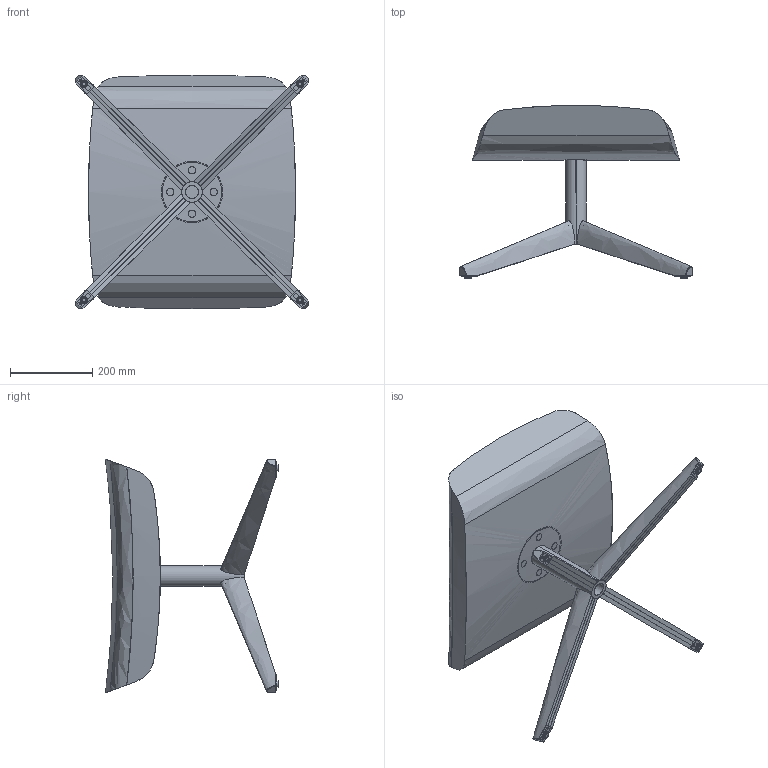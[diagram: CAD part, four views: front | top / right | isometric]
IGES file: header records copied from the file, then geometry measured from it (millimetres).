
Start section: SolidWorks IGES file using analytic representation for surfaces
Global section: file name: C:\Users\Kentie3D\Projecten\2013\1319 Montis verkoop info\Puk\3D\Puk poef.IGS; native system: SolidWorks 2013; preprocessor: SolidWorks 2013; author: Kentie3D; date: 131216.160407; units: millimetre
Bounding box: 568.99 x 422.21 x 569.19 mm (x, y, z)
Surface area: 1161136.5 mm2 (no closed solid volume)
Topology: 0 solids, 0 shells, 519 faces, 6539 edges, 6531 vertices
Faces by surface type: revolution 263, bspline 256
